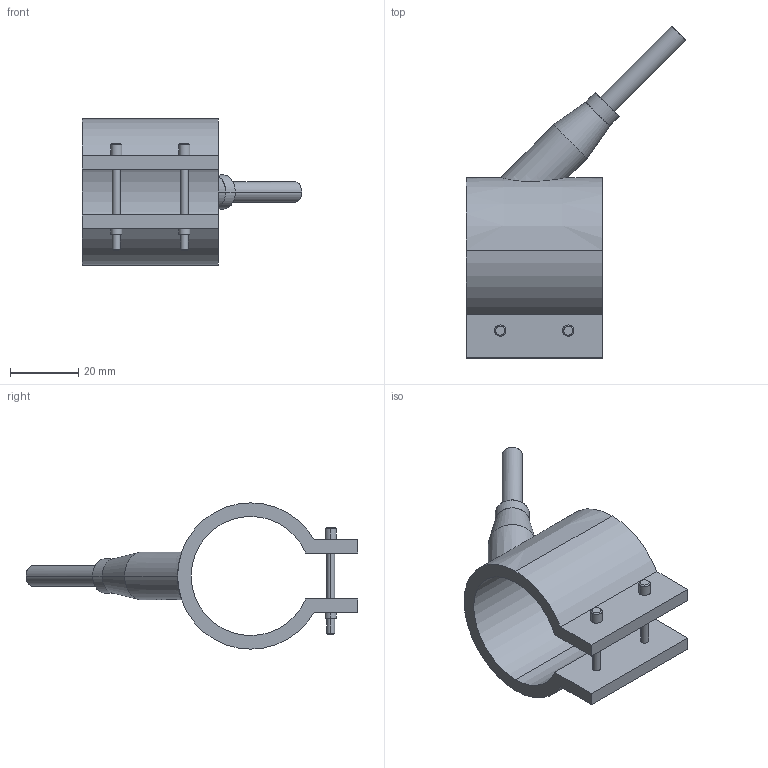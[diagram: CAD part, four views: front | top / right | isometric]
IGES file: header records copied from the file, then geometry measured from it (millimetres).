
Start section: START RECORD GO HERE.
Global section: file name: 29035040.igs; native system: DASSAULT SYSTEMES CATIA V5 R20 - www.3ds.com; preprocessor: CATIA Version 5 Release 20 ; author: Utente; organization: NB04-ASUS; date: 20210327.095959; units: millimetre
Bounding box: 64.55 x 97.55 x 43 mm (x, y, z)
Surface area: 14011.1 mm2 (no closed solid volume)
Topology: 0 solids, 0 shells, 54 faces, 246 edges, 246 vertices
Faces by surface type: revolution 38, plane 16
